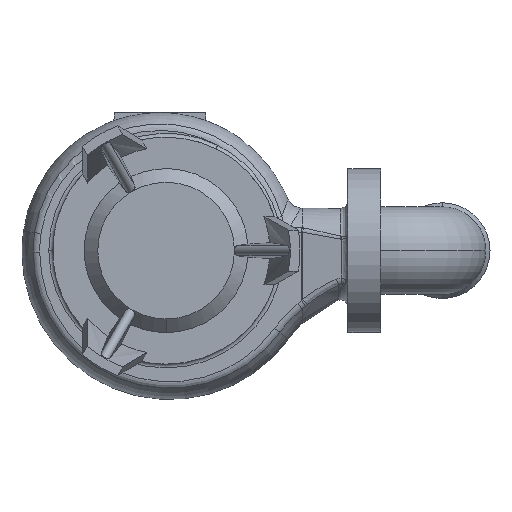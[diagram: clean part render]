
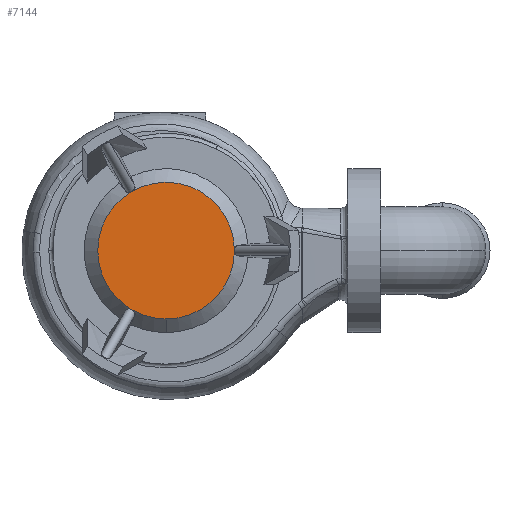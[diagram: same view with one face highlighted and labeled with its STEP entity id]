
A CAD part, front view. The second image highlights one B-rep face of the part: STEP entity #7144.
In plain terms, the highlighted planar face has unit normal (0, -1, 0).
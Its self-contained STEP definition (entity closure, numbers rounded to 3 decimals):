
#401 = ORIENTED_EDGE ( 'NONE', *, *, #6891, .F. ) ;
#576 = CARTESIAN_POINT ( 'NONE',  ( 0., -18., 0. ) ) ;
#930 = EDGE_CURVE ( 'NONE', #8988, #5766, #8834, .T. ) ;
#959 = CARTESIAN_POINT ( 'NONE',  ( 0., -18., -50. ) ) ;
#1224 = ORIENTED_EDGE ( 'NONE', *, *, #1996, .F. ) ;
#1339 = CARTESIAN_POINT ( 'NONE',  ( 50., -18., 0. ) ) ;
#1550 = CARTESIAN_POINT ( 'NONE',  ( 0., -18., 0. ) ) ;
#1870 = EDGE_CURVE ( 'NONE', #2557, #9765, #7803, .T. ) ;
#1996 = EDGE_CURVE ( 'NONE', #9765, #8988, #8651, .T. ) ;
#2557 = VERTEX_POINT ( 'NONE', #7459 ) ;
#2947 = FACE_OUTER_BOUND ( 'NONE', #10668, .T. ) ;
#3661 = DIRECTION ( 'NONE',  ( 0., 0., -1. ) ) ;
#3712 = PLANE ( 'NONE',  #9340 ) ;
#3831 = AXIS2_PLACEMENT_3D ( 'NONE', #576, #5065, #5662 ) ;
#3997 = AXIS2_PLACEMENT_3D ( 'NONE', #1550, #6427, #8208 ) ;
#4399 = CARTESIAN_POINT ( 'NONE',  ( -25., -18., 43.301 ) ) ;
#4885 = CARTESIAN_POINT ( 'NONE',  ( 0., -18., 0. ) ) ;
#4940 = DIRECTION ( 'NONE',  ( 0., 1., 0. ) ) ;
#5065 = DIRECTION ( 'NONE',  ( 0., 1., 0. ) ) ;
#5510 = CARTESIAN_POINT ( 'NONE',  ( -36., -18., 0. ) ) ;
#5582 = CIRCLE ( 'NONE', #9541, 50. ) ;
#5662 = DIRECTION ( 'NONE',  ( 0., 0., -1. ) ) ;
#5766 = VERTEX_POINT ( 'NONE', #959 ) ;
#5805 = ORIENTED_EDGE ( 'NONE', *, *, #930, .F. ) ;
#5979 = ORIENTED_EDGE ( 'NONE', *, *, #1870, .F. ) ;
#6427 = DIRECTION ( 'NONE',  ( 0., 1., 0. ) ) ;
#6746 = AXIS2_PLACEMENT_3D ( 'NONE', #7127, #10407, #3661 ) ;
#6891 = EDGE_CURVE ( 'NONE', #5766, #2557, #5582, .T. ) ;
#7127 = CARTESIAN_POINT ( 'NONE',  ( 0., -18., 0. ) ) ;
#7144 = ADVANCED_FACE ( 'NONE', ( #2947 ), #3712, .F. ) ;
#7450 = DIRECTION ( 'NONE',  ( 0., 0., -1. ) ) ;
#7459 = CARTESIAN_POINT ( 'NONE',  ( -25., -18., -43.301 ) ) ;
#7803 = CIRCLE ( 'NONE', #6746, 50. ) ;
#8208 = DIRECTION ( 'NONE',  ( 0., 0., -1. ) ) ;
#8651 = CIRCLE ( 'NONE', #3997, 50. ) ;
#8834 = CIRCLE ( 'NONE', #3831, 50. ) ;
#8988 = VERTEX_POINT ( 'NONE', #1339 ) ;
#9340 = AXIS2_PLACEMENT_3D ( 'NONE', #5510, #9395, #10403 ) ;
#9395 = DIRECTION ( 'NONE',  ( 0., 1., 0. ) ) ;
#9541 = AXIS2_PLACEMENT_3D ( 'NONE', #4885, #4940, #7450 ) ;
#9765 = VERTEX_POINT ( 'NONE', #4399 ) ;
#10403 = DIRECTION ( 'NONE',  ( 0., 0., -1. ) ) ;
#10407 = DIRECTION ( 'NONE',  ( 0., 1., 0. ) ) ;
#10668 = EDGE_LOOP ( 'NONE', ( #5805, #1224, #5979, #401 ) ) ;
